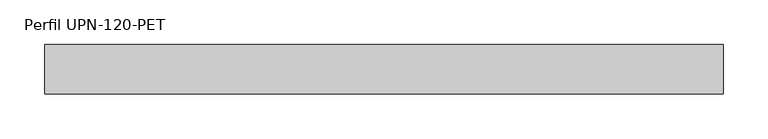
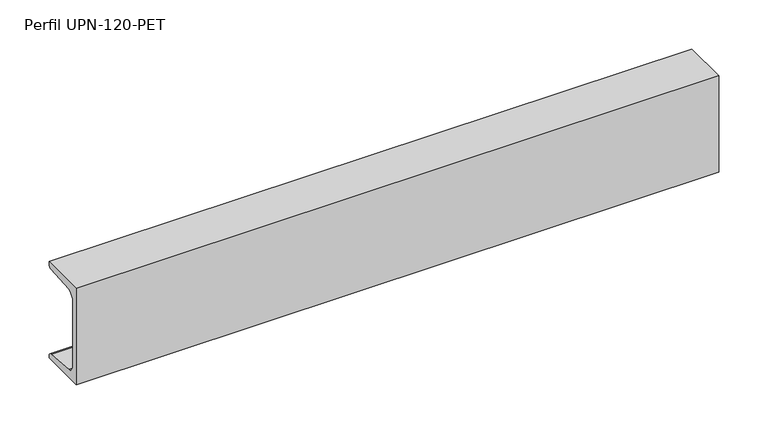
"""IFC4 building model written with IfcOpenShell, lengths in millimetres: beam geometry, ARES-I-AC-UPN-Perfil acero-PET : Perfil UPN-120-PET."""

from ifc_helpers import new_model, si_unit, point, frame, frame_2d, origin, place, context, project, spatial, polyline, circle_curve, trimmed, segment, composite_curve, outline, extrude, source, transform, mapped, element, save


def perfil_upn_120_pet_31115f7d(model_context):
    return source(origin(), model_context, "Body", "SweptSolid", [
        extrude(outline(composite_curve([segment(polyline([(-16.0, 60.0), (39.0, 60.0), (39.0, 57.354377)]), True, "CONTINUOUS"), segment(trimmed(circle_curve(frame_2d((34.5, 57.354377)), 4.5), [point((39.0, 57.354377))], [point((34.8588535, 52.8687083))], False, "CARTESIAN"), True, "CONTINUOUS"), segment(polyline([(34.8588535, 52.8687083), (-0.717707, 50.0225834)]), True, "CONTINUOUS"), segment(trimmed(circle_curve(frame_2d((0.0, 41.0512459)), 9.0), [point((-0.717707, 50.0225834))], [point((-9.0, 41.0512459))], True, "CARTESIAN"), True, "CONTINUOUS"), segment(polyline([(-9.0, 41.0512459), (-9.0, -41.0512459)]), True, "CONTINUOUS"), segment(trimmed(circle_curve(frame_2d((0.0, -41.0512459)), 9.0), [point((-9.0, -41.0512459))], [point((-0.717707, -50.0225834))], True, "CARTESIAN"), True, "CONTINUOUS"), segment(polyline([(-0.717707, -50.0225834), (34.8588535, -52.8687083)]), True, "CONTINUOUS"), segment(trimmed(circle_curve(frame_2d((34.5, -57.354377)), 4.5), [point((34.8588535, -52.8687083))], [point((39.0, -57.354377))], False, "CARTESIAN"), True, "CONTINUOUS"), segment(polyline([(39.0, -57.354377), (39.0, -60.0), (-16.0, -60.0), (-16.0, 60.0)]), True, "CONTINUOUS")], self_intersect=False)), frame((-378.0, 0.0, 0.0), z_axis=(1.0, 0.0, 0.0), x_axis=(0.0, 1.0, 0.0)), (0.0, 0.0, 1.0), 756.0),
    ])


if __name__ == "__main__":
    model = new_model("IFC4")
    model_context = context("Model", 3, world=origin())
    ifc_project = project(units=[si_unit("LENGTHUNIT", "METRE", prefix="MILLI")], contexts=[model_context])
    site = spatial("IfcSite", under=ifc_project)
    building = spatial("IfcBuilding", under=site)
    placement = place(None, origin())
    perfil_upn_120_pet_shape = perfil_upn_120_pet_31115f7d(model_context)
    element("IfcBeam", 1, ObjectType="ARES-I-AC-UPN-Perfil acero-PET : Perfil UPN-120-PET", at=placement, inside=building, context=model_context, shape_type="MappedRepresentation", body=[
        mapped(perfil_upn_120_pet_shape, transform((0.0, 0.0, 0.0), x_axis=(1.0, 0.0, 0.0), y_axis=(0.0, 1.0, 0.0), z_axis=(0.0, 0.0, 1.0))),
    ])
    save(model, "model.ifc")
